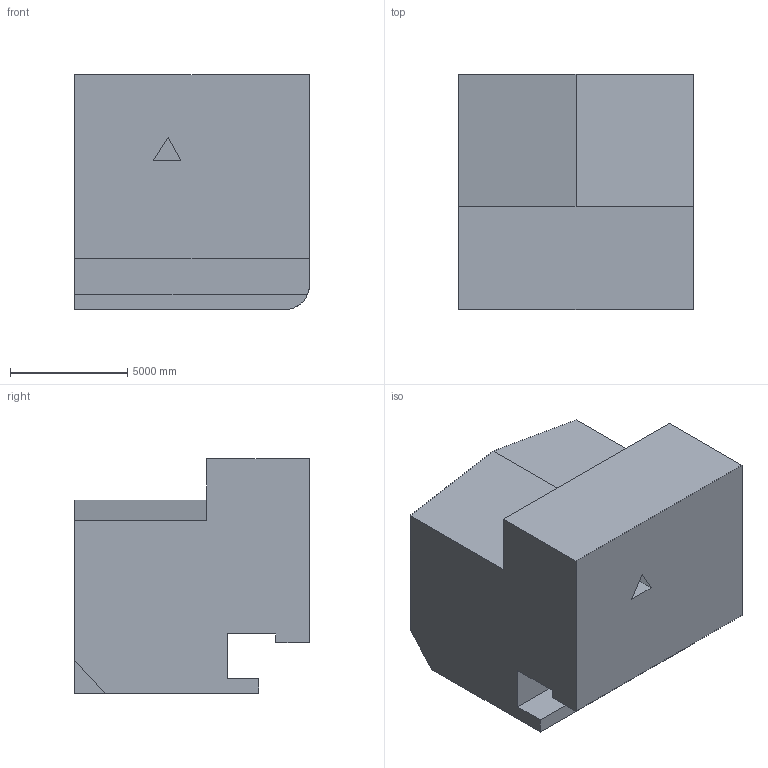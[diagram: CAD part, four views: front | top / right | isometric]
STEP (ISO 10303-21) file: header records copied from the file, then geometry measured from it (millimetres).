
FILE_DESCRIPTION (( 'STEP AP203' ), '1' );
FILE_NAME ('722.STEP', '2022-07-29T12:45:33', ( 'user' ), ( '' ), 'SwSTEP 2.0', 'SolidWorks 2021', '' );
FILE_SCHEMA (( 'CONFIG_CONTROL_DESIGN' ));
Length unit declared in the file: centimetre
Products named in the file (1): 722
Bounding box: 10000 x 10000 x 10000 mm (x, y, z)
Volume: 763456076303.8 mm3; surface area: 665166890 mm2
Topology: 1 solids, 1 shells, 33 faces, 90 edges, 60 vertices
Faces by surface type: plane 32, cylinder 1
Entity records: 1104 total; most frequent: CARTESIAN_POINT 184, ORIENTED_EDGE 180, DIRECTION 161, EDGE_CURVE 90, LINE 87, VECTOR 87, VERTEX_POINT 60, AXIS2_PLACEMENT_3D 37
